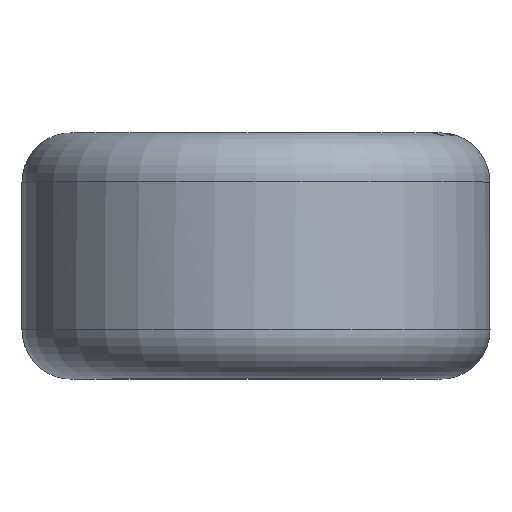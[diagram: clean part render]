
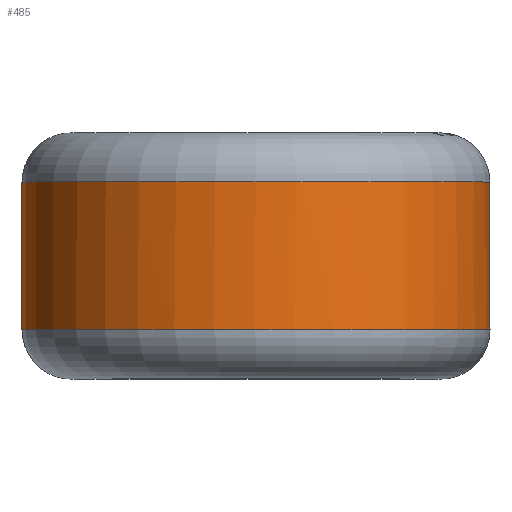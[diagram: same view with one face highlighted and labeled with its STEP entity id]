
A CAD part, top view. The second image highlights one B-rep face of the part: STEP entity #485.
In plain terms, the highlighted cylindrical face has radius 4.75 mm (diameter 9.5 mm), a full revolution.
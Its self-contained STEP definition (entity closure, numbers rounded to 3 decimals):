
#48=LINE('',#2598,#53);
#53=VECTOR('',#676,4.75);
#62=CYLINDRICAL_SURFACE('',#559,4.75);
#86=FACE_OUTER_BOUND('',#117,.T.);
#117=EDGE_LOOP('',(#412,#413,#414,#415,#416,#417,#418,#419,#420,#421,#422,
#423));
#145=CIRCLE('',#543,4.75);
#146=CIRCLE('',#544,4.75);
#147=CIRCLE('',#545,4.75);
#153=CIRCLE('',#552,4.75);
#154=CIRCLE('',#553,4.75);
#155=CIRCLE('',#554,4.75);
#177=B_SPLINE_CURVE_WITH_KNOTS('',3,(#966,#967,#968,#969,#970,#971,#972,
#973,#974,#975,#976,#977,#978,#979,#980,#981,#982,#983,#984,#985,#986,#987,
#988,#989,#990),.UNSPECIFIED.,.F.,.F.,(4,3,3,3,3,3,3,3,4),(-0.123,
-0.087,-0.069,-0.052,-0.047,
-0.043,-0.034,-0.016,-0.002),
 .UNSPECIFIED.);
#178=B_SPLINE_CURVE_WITH_KNOTS('',3,(#991,#992,#993,#994,#995,#996,#997,
#998),.UNSPECIFIED.,.F.,.F.,(4,1,1,1,1,4),(-0.281,-0.259,
-0.224,-0.188,-0.17,-0.153),
 .UNSPECIFIED.);
#186=B_SPLINE_CURVE_WITH_KNOTS('',3,(#1796,#1797,#1798,#1799,#1800,#1801,
#1802,#1803,#1804,#1805,#1806,#1807,#1808,#1809,#1810,#1811,#1812,#1813,
#1814,#1815,#1816,#1817,#1818,#1819,#1820),.UNSPECIFIED.,.F.,.F.,(4,3,3,
3,3,3,3,3,4),(-0.153,-0.117,-0.1,
-0.082,-0.077,-0.073,-0.064,
-0.046,-0.032),.UNSPECIFIED.);
#187=B_SPLINE_CURVE_WITH_KNOTS('',3,(#1821,#1822,#1823,#1824,#1825,#1826,
#1827,#1828),.UNSPECIFIED.,.F.,.F.,(4,1,1,1,1,4),(-0.311,-0.289,
-0.254,-0.218,-0.2,-0.183),
 .UNSPECIFIED.);
#207=VERTEX_POINT('',#887);
#212=VERTEX_POINT('',#963);
#213=VERTEX_POINT('',#965);
#217=VERTEX_POINT('',#1635);
#218=VERTEX_POINT('',#1638);
#219=VERTEX_POINT('',#1717);
#224=VERTEX_POINT('',#1793);
#225=VERTEX_POINT('',#1795);
#229=VERTEX_POINT('',#2465);
#230=VERTEX_POINT('',#2468);
#266=EDGE_CURVE('',#212,#213,#177,.T.);
#267=EDGE_CURVE('',#213,#207,#178,.T.);
#274=EDGE_CURVE('',#217,#212,#145,.T.);
#275=EDGE_CURVE('',#207,#218,#146,.T.);
#276=EDGE_CURVE('',#218,#217,#147,.T.);
#283=EDGE_CURVE('',#224,#225,#186,.T.);
#284=EDGE_CURVE('',#225,#219,#187,.T.);
#291=EDGE_CURVE('',#229,#224,#153,.T.);
#292=EDGE_CURVE('',#219,#230,#154,.T.);
#293=EDGE_CURVE('',#230,#229,#155,.T.);
#298=EDGE_CURVE('',#230,#218,#48,.T.);
#412=ORIENTED_EDGE('',*,*,#283,.F.);
#413=ORIENTED_EDGE('',*,*,#291,.F.);
#414=ORIENTED_EDGE('',*,*,#293,.F.);
#415=ORIENTED_EDGE('',*,*,#298,.T.);
#416=ORIENTED_EDGE('',*,*,#275,.F.);
#417=ORIENTED_EDGE('',*,*,#267,.F.);
#418=ORIENTED_EDGE('',*,*,#266,.F.);
#419=ORIENTED_EDGE('',*,*,#274,.F.);
#420=ORIENTED_EDGE('',*,*,#276,.F.);
#421=ORIENTED_EDGE('',*,*,#298,.F.);
#422=ORIENTED_EDGE('',*,*,#292,.F.);
#423=ORIENTED_EDGE('',*,*,#284,.F.);
#485=ADVANCED_FACE('',(#86),#62,.T.);
#543=AXIS2_PLACEMENT_3D('',#1637,#642,#643);
#544=AXIS2_PLACEMENT_3D('',#1639,#644,#645);
#545=AXIS2_PLACEMENT_3D('',#1640,#646,#647);
#552=AXIS2_PLACEMENT_3D('',#2467,#660,#661);
#553=AXIS2_PLACEMENT_3D('',#2469,#662,#663);
#554=AXIS2_PLACEMENT_3D('',#2470,#664,#665);
#559=AXIS2_PLACEMENT_3D('',#2597,#674,#675);
#642=DIRECTION('center_axis',(0.,1.,0.));
#643=DIRECTION('ref_axis',(-1.,0.,0.));
#644=DIRECTION('center_axis',(0.,1.,0.));
#645=DIRECTION('ref_axis',(-1.,0.,0.));
#646=DIRECTION('center_axis',(0.,1.,0.));
#647=DIRECTION('ref_axis',(-1.,0.,0.));
#660=DIRECTION('center_axis',(0.,-1.,0.));
#661=DIRECTION('ref_axis',(-1.,0.,0.));
#662=DIRECTION('center_axis',(0.,-1.,0.));
#663=DIRECTION('ref_axis',(-1.,0.,0.));
#664=DIRECTION('center_axis',(0.,-1.,0.));
#665=DIRECTION('ref_axis',(-1.,0.,0.));
#674=DIRECTION('center_axis',(0.,-1.,0.));
#675=DIRECTION('ref_axis',(1.,0.,0.));
#676=DIRECTION('',(0.,1.,0.));
#887=CARTESIAN_POINT('',(-3.14,1.5,-3.565));
#963=CARTESIAN_POINT('',(-2.78,1.5,-3.851));
#965=CARTESIAN_POINT('',(-2.91,0.062,-3.754));
#966=CARTESIAN_POINT('Ctrl Pts',(-2.78,1.5,-3.851));
#967=CARTESIAN_POINT('Ctrl Pts',(-2.638,1.434,-3.954));
#968=CARTESIAN_POINT('Ctrl Pts',(-2.511,1.291,-4.032));
#969=CARTESIAN_POINT('Ctrl Pts',(-2.443,1.113,-4.074));
#970=CARTESIAN_POINT('Ctrl Pts',(-2.409,1.024,-4.094));
#971=CARTESIAN_POINT('Ctrl Pts',(-2.389,0.925,-4.105));
#972=CARTESIAN_POINT('Ctrl Pts',(-2.386,0.826,-4.107));
#973=CARTESIAN_POINT('Ctrl Pts',(-2.383,0.728,-4.109));
#974=CARTESIAN_POINT('Ctrl Pts',(-2.397,0.628,-4.101));
#975=CARTESIAN_POINT('Ctrl Pts',(-2.426,0.536,-4.084));
#976=CARTESIAN_POINT('Ctrl Pts',(-2.433,0.513,-4.079));
#977=CARTESIAN_POINT('Ctrl Pts',(-2.441,0.49,-4.075));
#978=CARTESIAN_POINT('Ctrl Pts',(-2.451,0.468,-4.069));
#979=CARTESIAN_POINT('Ctrl Pts',(-2.46,0.446,-4.064));
#980=CARTESIAN_POINT('Ctrl Pts',(-2.469,0.425,-4.058));
#981=CARTESIAN_POINT('Ctrl Pts',(-2.48,0.404,-4.051));
#982=CARTESIAN_POINT('Ctrl Pts',(-2.502,0.362,-4.038));
#983=CARTESIAN_POINT('Ctrl Pts',(-2.526,0.323,-4.023));
#984=CARTESIAN_POINT('Ctrl Pts',(-2.553,0.288,-4.005));
#985=CARTESIAN_POINT('Ctrl Pts',(-2.608,0.217,-3.97));
#986=CARTESIAN_POINT('Ctrl Pts',(-2.673,0.158,-3.928));
#987=CARTESIAN_POINT('Ctrl Pts',(-2.743,0.119,-3.879));
#988=CARTESIAN_POINT('Ctrl Pts',(-2.797,0.089,-3.84));
#989=CARTESIAN_POINT('Ctrl Pts',(-2.854,0.07,-3.798));
#990=CARTESIAN_POINT('Ctrl Pts',(-2.91,0.062,-3.754));
#991=CARTESIAN_POINT('Ctrl Pts',(-2.91,0.062,-3.754));
#992=CARTESIAN_POINT('Ctrl Pts',(-3.,0.05,-3.684));
#993=CARTESIAN_POINT('Ctrl Pts',(-3.236,0.096,-3.489));
#994=CARTESIAN_POINT('Ctrl Pts',(-3.489,0.501,-3.224));
#995=CARTESIAN_POINT('Ctrl Pts',(-3.479,1.035,-3.235));
#996=CARTESIAN_POINT('Ctrl Pts',(-3.324,1.362,-3.396));
#997=CARTESIAN_POINT('Ctrl Pts',(-3.205,1.467,-3.507));
#998=CARTESIAN_POINT('Ctrl Pts',(-3.14,1.5,-3.565));
#1635=CARTESIAN_POINT('',(0.,1.5,4.75));
#1637=CARTESIAN_POINT('Origin',(0.,1.5,0.));
#1638=CARTESIAN_POINT('',(-4.75,1.5,0.));
#1639=CARTESIAN_POINT('Origin',(0.,1.5,0.));
#1640=CARTESIAN_POINT('Origin',(0.,1.5,0.));
#1717=CARTESIAN_POINT('',(3.14,-1.5,-3.565));
#1793=CARTESIAN_POINT('',(2.78,-1.5,-3.851));
#1795=CARTESIAN_POINT('',(2.91,-0.062,-3.754));
#1796=CARTESIAN_POINT('Ctrl Pts',(2.78,-1.5,-3.851));
#1797=CARTESIAN_POINT('Ctrl Pts',(2.638,-1.434,-3.954));
#1798=CARTESIAN_POINT('Ctrl Pts',(2.511,-1.291,-4.032));
#1799=CARTESIAN_POINT('Ctrl Pts',(2.443,-1.113,-4.074));
#1800=CARTESIAN_POINT('Ctrl Pts',(2.409,-1.024,-4.094));
#1801=CARTESIAN_POINT('Ctrl Pts',(2.389,-0.925,-4.105));
#1802=CARTESIAN_POINT('Ctrl Pts',(2.386,-0.826,-4.107));
#1803=CARTESIAN_POINT('Ctrl Pts',(2.383,-0.728,-4.109));
#1804=CARTESIAN_POINT('Ctrl Pts',(2.397,-0.628,-4.101));
#1805=CARTESIAN_POINT('Ctrl Pts',(2.426,-0.536,-4.084));
#1806=CARTESIAN_POINT('Ctrl Pts',(2.433,-0.513,-4.079));
#1807=CARTESIAN_POINT('Ctrl Pts',(2.441,-0.49,-4.075));
#1808=CARTESIAN_POINT('Ctrl Pts',(2.451,-0.468,-4.069));
#1809=CARTESIAN_POINT('Ctrl Pts',(2.46,-0.446,-4.064));
#1810=CARTESIAN_POINT('Ctrl Pts',(2.469,-0.425,-4.058));
#1811=CARTESIAN_POINT('Ctrl Pts',(2.48,-0.404,-4.051));
#1812=CARTESIAN_POINT('Ctrl Pts',(2.502,-0.362,-4.038));
#1813=CARTESIAN_POINT('Ctrl Pts',(2.526,-0.323,-4.023));
#1814=CARTESIAN_POINT('Ctrl Pts',(2.553,-0.288,-4.005));
#1815=CARTESIAN_POINT('Ctrl Pts',(2.608,-0.217,-3.97));
#1816=CARTESIAN_POINT('Ctrl Pts',(2.673,-0.158,-3.928));
#1817=CARTESIAN_POINT('Ctrl Pts',(2.743,-0.119,-3.879));
#1818=CARTESIAN_POINT('Ctrl Pts',(2.797,-0.089,
-3.84));
#1819=CARTESIAN_POINT('Ctrl Pts',(2.854,-0.07,
-3.798));
#1820=CARTESIAN_POINT('Ctrl Pts',(2.91,-0.062,
-3.754));
#1821=CARTESIAN_POINT('Ctrl Pts',(2.91,-0.062,
-3.754));
#1822=CARTESIAN_POINT('Ctrl Pts',(3.,-0.05,-3.684));
#1823=CARTESIAN_POINT('Ctrl Pts',(3.236,-0.096,
-3.489));
#1824=CARTESIAN_POINT('Ctrl Pts',(3.489,-0.501,-3.224));
#1825=CARTESIAN_POINT('Ctrl Pts',(3.479,-1.035,-3.235));
#1826=CARTESIAN_POINT('Ctrl Pts',(3.324,-1.362,-3.396));
#1827=CARTESIAN_POINT('Ctrl Pts',(3.205,-1.467,-3.507));
#1828=CARTESIAN_POINT('Ctrl Pts',(3.14,-1.5,-3.565));
#2465=CARTESIAN_POINT('',(0.,-1.5,-4.75));
#2467=CARTESIAN_POINT('Origin',(0.,-1.5,0.));
#2468=CARTESIAN_POINT('',(-4.75,-1.5,0.));
#2469=CARTESIAN_POINT('Origin',(0.,-1.5,0.));
#2470=CARTESIAN_POINT('Origin',(0.,-1.5,0.));
#2597=CARTESIAN_POINT('Origin',(0.,0.,
0.));
#2598=CARTESIAN_POINT('',(-4.75,0.,0.));
